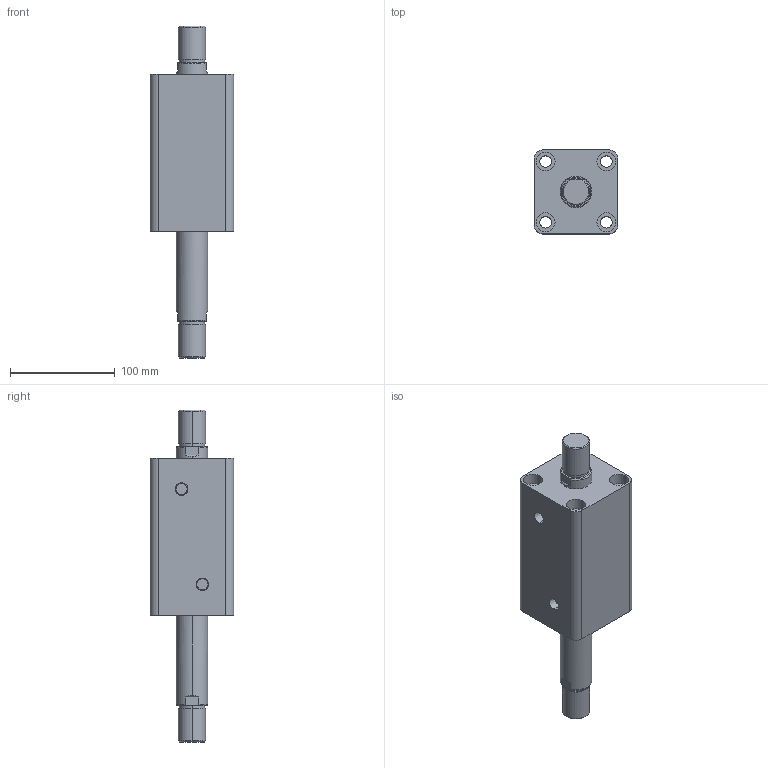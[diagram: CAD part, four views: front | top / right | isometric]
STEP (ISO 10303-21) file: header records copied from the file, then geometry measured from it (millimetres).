
FILE_DESCRIPTION (( 'STEP AP203' ), '1' );
FILE_NAME ('HTB-SW50-75W.STEP', '2019-10-07T09:23:53', ( '微软用户' ), ( '微软中国' ), 'SwSTEP 2.0', 'SolidWorks 2012', '' );
FILE_SCHEMA (( 'CONFIG_CONTROL_DESIGN' ));
Length unit declared in the file: millimetre
Products named in the file (3): HTB-SW50-75W; HTB-SW50-75W活塞杆; HTB-SW50-75掛极
Assembly tree (2 placements, depth 2):
  HTB-SW50-75W
    HTB-SW50-75掛极
    HTB-SW50-75W活塞杆
Bounding box: 80 x 80 x 317 mm (x, y, z)
Volume: 889097.9 mm3; surface area: 136802.8 mm2
Topology: 2 solids, 2 shells, 108 faces, 240 edges, 156 vertices
Faces by surface type: cylinder 52, plane 36, torus 12, cone 8
Entity records: 3449 total; most frequent: CARTESIAN_POINT 629, DIRECTION 586, ORIENTED_EDGE 480, AXIS2_PLACEMENT_3D 249, EDGE_CURVE 240, VERTEX_POINT 156, EDGE_LOOP 138, CIRCLE 136
